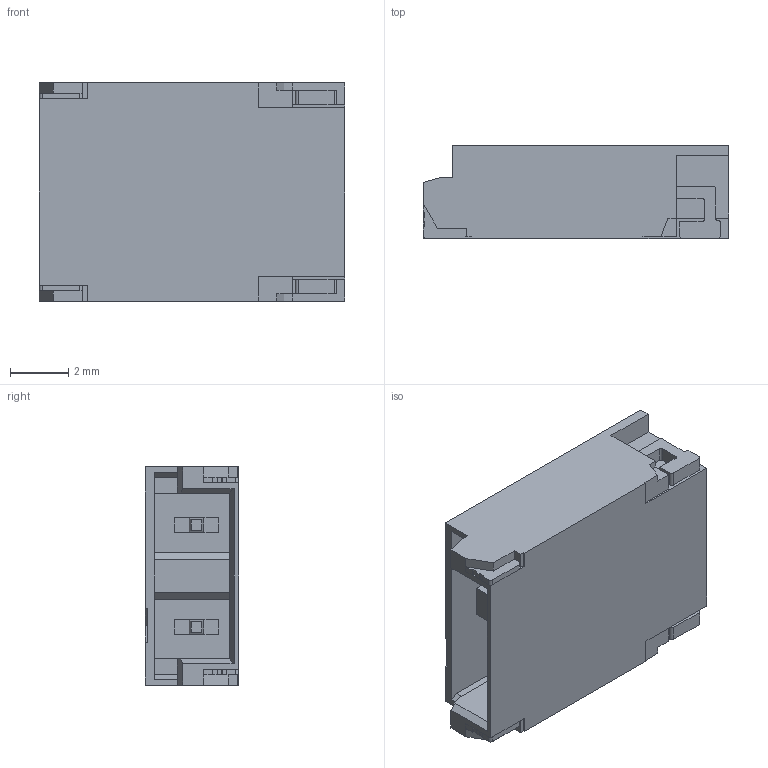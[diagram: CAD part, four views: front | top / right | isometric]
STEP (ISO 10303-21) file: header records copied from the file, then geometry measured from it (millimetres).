
FILE_DESCRIPTION (( 'STEP AP214' ), '1' );
FILE_NAME ('SM02B-BHSS-1-TB(LF)(SN).STEP', '2023-06-16T18:45:47', ( '' ), ( '' ), 'SwSTEP 2.0', 'SolidWorks 2021', '' );
FILE_SCHEMA (( 'AUTOMOTIVE_DESIGN' ));
Length unit declared in the file: millimetre
Products named in the file (1): SM02B-BHSS-1-TB(LF)(SN)
Bounding box: 10.5 x 3.2 x 7.5 mm (x, y, z)
Volume: 148.2 mm3; surface area: 436.7 mm2
Topology: 7 solids, 7 shells, 178 faces, 474 edges, 312 vertices
Faces by surface type: plane 154, cylinder 24
Entity records: 5538 total; most frequent: CARTESIAN_POINT 965, ORIENTED_EDGE 948, DIRECTION 880, EDGE_CURVE 474, VECTOR 426, LINE 426, VERTEX_POINT 312, AXIS2_PLACEMENT_3D 227
